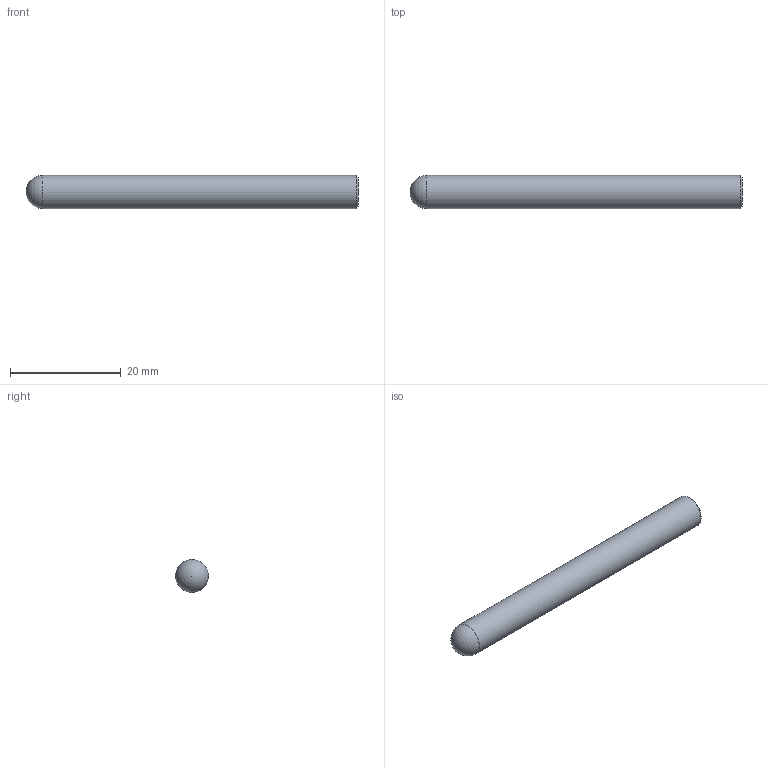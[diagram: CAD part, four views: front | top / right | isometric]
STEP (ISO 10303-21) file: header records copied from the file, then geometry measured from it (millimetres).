
FILE_DESCRIPTION(/* description */ (''),/* implementation_level */ '2;1');
FILE_NAME(/* name */ 'HSXB2060 0660.stp',/* time_stamp */ '2026-08-01T17:15:13+08:00',/* author */ (''),/* organization */ (''),/* preprocessor_version */ 'ST-DEVELOPER v16',/* originating_system */ 'SIEMENS PLM Software NX 10.0',/* authorisation */ '');
FILE_SCHEMA (('CONFIG_CONTROL_DESIGN'));
Length unit declared in the file: millimetre
Products named in the file (1): HSXB2060 0660_dxf
Bounding box: 60 x 6 x 6 mm (x, y, z)
Volume: 1667.4 mm3; surface area: 1155.8 mm2
Topology: 1 solids, 1 shells, 4 faces, 8 edges, 5 vertices
Faces by surface type: plane 1, sphere 1, cylinder 1, cone 1
Full cylindrical faces by diameter (mm): 6 x1
Entity records: 158 total; most frequent: DIRECTION 16, CARTESIAN_POINT 11, AXIS2_PLACEMENT_3D 8, PERSON_AND_ORGANIZATION 7, ORGANIZATION 7, EDGE_LOOP 6, ORIENTED_EDGE 6, DATE_AND_TIME 5
